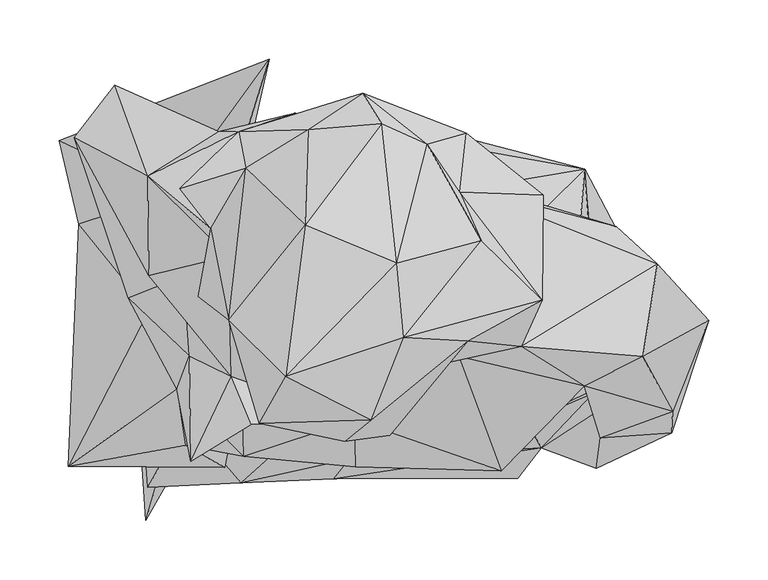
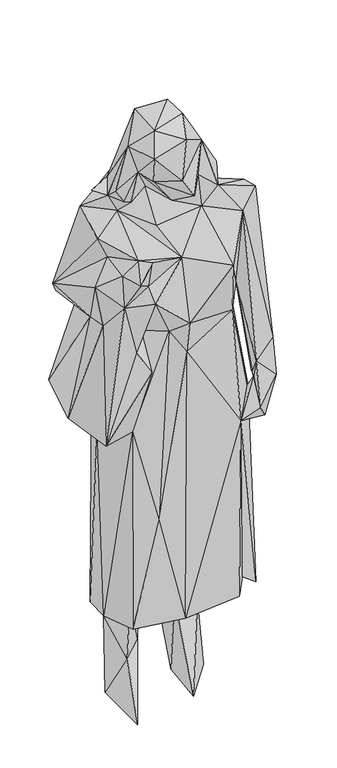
"""IFC4 building model written with IfcOpenShell, lengths in millimetres: geographic element geometry, Enscape AssetDefinition - Aamina 001 Standing : Enscape AssetDefinition - Aamina 001 Standing."""

import ifcopenshell
import ifcopenshell.guid

model = None  # the IFC model being written
_history = None  # IfcOwnerHistory: only IFC2X3 demands one
_inside = {}  # id of a spatial element -> (the spatial element, [elements in it])
_under = {}  # id of a project, library or spatial element -> (it, [spatial elements below it])
_declared = {}  # id of a project -> (the project, [libraries it declares])
_typed = {}  # id of a type object -> (the type object, [elements of that type])
_made_of = {}  # id of a material, layer set ... -> (it, [elements and type objects made of it])


def new_model(schema):
    """Start an empty IFC model of exactly this schema.

    Asked for "IFC4X3", IfcOpenShell would pick the latest addendum, in which some entities
    have other attributes; the version numbers below select the first issue.
    IFC2X3 requires an IfcOwnerHistory on every rooted entity: one is made here for all.
    """
    global model, _history
    if schema == "IFC4X3":
        model = ifcopenshell.file(schema_version=(4, 3, 0, 0))
    else:
        model = ifcopenshell.file(schema=schema)
    _inside.clear()
    _under.clear()
    _declared.clear()
    _typed.clear()
    _made_of.clear()
    _history = None
    if model.schema == "IFC2X3":
        org = make("IfcOrganization", Name="unknown")
        user = make(
            "IfcPersonAndOrganization",
            ThePerson=make("IfcPerson", FamilyName="unknown"),
            TheOrganization=org,
        )
        app = make(
            "IfcApplication",
            ApplicationDeveloper=org,
            Version="unknown",
            ApplicationFullName="unknown",
            ApplicationIdentifier="unknown",
        )
        _history = make(
            "IfcOwnerHistory",
            OwningUser=user,
            OwningApplication=app,
            ChangeAction="ADDED",
            CreationDate=0,
        )
    return model


def make(cls, **values):
    """One entity of the class cls with the attributes given. An attribute that is None is left unset."""
    return model.create_entity(
        cls, **{name: value for name, value in values.items() if value is not None}
    )


def rooted(cls, **values):
    """An entity with a GlobalId (a new one), such as an element, a storey or a relation."""
    return make(cls, GlobalId=ifcopenshell.guid.new(), OwnerHistory=_history, **values)


def si_unit(unit_type, name, prefix=None):
    """IfcSIUnit, for example si_unit("LENGTHUNIT", "METRE", prefix="MILLI")."""
    return make("IfcSIUnit", UnitType=unit_type, Prefix=prefix, Name=name)


def assignment(units):
    """IfcUnitAssignment: the units of a project."""
    return None if units is None else make("IfcUnitAssignment", Units=units)


def point(xyz):
    """IfcCartesianPoint."""
    return None if xyz is None else make("IfcCartesianPoint", Coordinates=xyz)


def direction(xyz):
    """IfcDirection."""
    return None if xyz is None else make("IfcDirection", DirectionRatios=xyz)


def frame(location, z_axis=None, x_axis=None):
    """IfcAxis2Placement3D, a coordinate frame: its origin and axes. An axis left out is left unset."""
    return make(
        "IfcAxis2Placement3D",
        Location=point(location),
        Axis=direction(z_axis),
        RefDirection=direction(x_axis),
    )


def origin():
    """The frame at (0, 0, 0) with its axes left unset."""
    return frame((0.0, 0.0, 0.0))


def place(relative_to, where):
    """IfcLocalPlacement: puts the frame where relative to a parent placement (None: the world)."""
    return make(
        "IfcLocalPlacement", PlacementRelTo=relative_to, RelativePlacement=where
    )


def context(
    kind, dimensions, precision=None, world=None, true_north=None, identifier=None
):
    """IfcGeometricRepresentationContext, for example the 3D "Model" context."""
    return make(
        "IfcGeometricRepresentationContext",
        ContextIdentifier=identifier,
        ContextType=kind,
        CoordinateSpaceDimension=dimensions,
        Precision=precision,
        WorldCoordinateSystem=world,
        TrueNorth=true_north,
    )


def project(units=None, contexts=None):
    """IfcProject with its units and contexts."""
    return rooted(
        "IfcProject",
        Name="project",
        RepresentationContexts=contexts,
        UnitsInContext=assignment(units),
    )


def spatial(cls, under=None, at=None, **own):
    """A site, building, storey or space (cls), placed at a placement, below another one or the project."""
    s = rooted(cls, ObjectPlacement=at, **own)
    if under is not None:
        _under.setdefault(under.id(), (under, []))[1].append(s)
    return s


def faces_of(points, faces, orient=None, outer=None):
    """IfcFace entities. A face is a list of loops; a loop is a list of indices into points, from 0.

    orient and outer hold one flag for each loop. By default every Orientation is true, the
    first loop of a face is its IfcFaceOuterBound and the others are IfcFaceBound.
    """
    made = []
    for i, loops in enumerate(faces):
        bounds = []
        for j, loop in enumerate(loops):
            is_outer = j == 0 if outer is None else outer[i][j]
            bounds.append(
                make(
                    "IfcFaceOuterBound" if is_outer else "IfcFaceBound",
                    Bound=make("IfcPolyLoop", Polygon=[points[k] for k in loop]),
                    Orientation=True if orient is None else orient[i][j],
                )
            )
        made.append(make("IfcFace", Bounds=bounds))
    return made


def faceted_brep(points, faces, orient=None, outer=None, voids=None):
    """IfcFacetedBrep: a solid bounded by flat faces; with voids (closed shells), ...WithVoids."""
    shared = [point(p) for p in points]
    hull = make("IfcClosedShell", CfsFaces=faces_of(shared, faces, orient, outer))
    if voids is None:
        return make("IfcFacetedBrep", Outer=hull)
    return make(
        "IfcFacetedBrepWithVoids",
        Outer=hull,
        Voids=[
            make(cls, CfsFaces=faces_of(shared, fs, o, b)) for cls, fs, o, b in voids
        ],
    )


def shape(context_of_items, identifier, shape_type, items):
    """IfcShapeRepresentation: the items that make up one representation, for example the "Body"."""
    return make(
        "IfcShapeRepresentation",
        ContextOfItems=context_of_items,
        RepresentationIdentifier=identifier,
        RepresentationType=shape_type,
        Items=items,
    )


def source(mapping_origin, context_of_items, identifier, shape_type, items):
    """IfcRepresentationMap: a shape defined once, which mapped items show again and again."""
    return make(
        "IfcRepresentationMap",
        MappingOrigin=mapping_origin,
        MappedRepresentation=shape(context_of_items, identifier, shape_type, items),
    )


def transform(
    local_origin,
    x_axis=None,
    y_axis=None,
    z_axis=None,
    scale=None,
    scale2=None,
    scale3=None,
    uniform=True,
):
    """IfcCartesianTransformationOperator3D, or its non-uniform kind. x_axis, y_axis, z_axis: its Axis1, 2, 3."""
    if uniform:
        return make(
            "IfcCartesianTransformationOperator3D",
            Axis1=direction(x_axis),
            Axis2=direction(y_axis),
            LocalOrigin=point(local_origin),
            Scale=scale,
            Axis3=direction(z_axis),
        )
    return make(
        "IfcCartesianTransformationOperator3DnonUniform",
        Axis1=direction(x_axis),
        Axis2=direction(y_axis),
        LocalOrigin=point(local_origin),
        Scale=scale,
        Axis3=direction(z_axis),
        Scale2=scale2,
        Scale3=scale3,
    )


def mapped(mapping_source, mapping_target):
    """IfcMappedItem: shows the shape of a source again, moved by a transform."""
    return make(
        "IfcMappedItem", MappingSource=mapping_source, MappingTarget=mapping_target
    )


def made_of(thing, what):
    """Note that an element or type object is made of a material, layer set ...; save() writes the relation."""
    if what is not None:
        _made_of.setdefault(what.id(), (what, []))[1].append(thing)
    return thing


def element(
    cls,
    number,
    at=None,
    inside=None,
    cuts=None,
    type_object=None,
    material=None,
    context=None,
    identifier="Body",
    shape_type=None,
    held_by="IfcProductDefinitionShape",
    body=None,
    shapes=None,
    **own,
):
    """One element of the class cls, such as IfcWall. Its Tag is "e" and its number.

    at: its placement. inside: the storey or other place that contains it. cuts: it is an
    opening in that element (IfcRelVoidsElement). A single representation is given by context,
    identifier, shape_type and body (its items); several are given by shapes. held_by: the class
    of the entity that holds the representations. save() writes the other relations.
    """
    e = rooted(cls, Tag="e%d" % number, ObjectPlacement=at, **own)
    if body is not None:
        shapes = [shape(context, identifier, shape_type, body)]
    if shapes is not None:
        e.Representation = make(held_by, Representations=shapes)
    if inside is not None:
        _inside.setdefault(inside.id(), (inside, []))[1].append(e)
    if cuts is not None:
        rooted(
            "IfcRelVoidsElement", RelatingBuildingElement=cuts, RelatedOpeningElement=e
        )
    if type_object is not None:
        _typed.setdefault(type_object.id(), (type_object, []))[1].append(e)
    return made_of(e, material)


def aggregate(whole, parts):
    """IfcRelAggregates: a whole, such as a stair, and the parts it consists of."""
    return rooted("IfcRelAggregates", RelatingObject=whole, RelatedObjects=parts)


def save(model, path):
    """Write the relations noted so far, then the file.

    IfcRelAggregates (storeys below a building ...), IfcRelContainedInSpatialStructure (elements
    in a storey), IfcRelDefinesByType, IfcRelAssociatesMaterial and IfcRelDeclares: one each for
    every whole, place, type object, material and project.
    """
    for whole, parts in _under.values():
        aggregate(whole, parts)
    for where, things in _inside.values():
        rooted(
            "IfcRelContainedInSpatialStructure",
            RelatedElements=things,
            RelatingStructure=where,
        )
    for kind, things in _typed.values():
        rooted("IfcRelDefinesByType", RelatedObjects=things, RelatingType=kind)
    for what, things in _made_of.values():
        rooted("IfcRelAssociatesMaterial", RelatedObjects=things, RelatingMaterial=what)
    for by, libraries in _declared.values():
        rooted("IfcRelDeclares", RelatingContext=by, RelatedDefinitions=libraries)
    model.write(path)


def geographic_element_03cdde9f(model_context):
    return source(origin(), model_context, "Body", "Brep", [
        faceted_brep([(3.6925983, 206.5947801, 1345.253706), (174.9135703, 140.3862238, 1154.0257931), (21.5798579, 154.0911347, 1116.5812016), (242.7344471, 4.6370788, 1141.3136721), (274.4769454, 111.1458763, 1334.4503641), (122.7270067, 144.2300826, 1325.0946999), (184.3580604, 97.0522836, 1116.2426472), (52.6192337, 198.403284, 1379.4064522), (144.9224055, 144.7923034, 1409.0415239), (148.063913, 189.5977259, 1457.6463699), (-43.8156687, 191.1288202, 1427.0786047), (60.8024299, 223.370865, 1437.37638), (115.0542423, 180.5336922, 1494.5758581), (142.4119473, 140.0640458, 1501.7603636), (212.7172649, 137.699604, 1458.6706161), (14.8781734, 192.8695142, 1483.4904671), (76.7580718, 197.7647543, 1508.0133677), (89.2591253, 80.0953656, 1701.9703388), (160.6013775, 99.3338451, 1557.7789545), (211.9131982, 49.1283312, 1488.6627197), (149.1457522, 14.4895604, 1596.9716311), (95.3851268, 17.2376521, 1695.0858831), (194.3504065, 9.9622039, 1446.5658665), (67.7939132, -52.083984, 1665.6156778), (-4.0504406, -15.299011, 1695.9196329), (45.2759676, -70.0301677, 1560.7132912), (-26.7371889, -55.1659353, 1641.1787271), (-52.117344, 32.0034884, 1637.652874), (12.4091804, 112.2973487, 1680.280447), (-19.1038195, 39.9835594, 1541.8515205), (-17.3689257, -34.1405682, 1556.8079948), (83.4639966, -65.3290078, 1498.3328581), (53.9848581, -3.1907908, 1457.3286772), (128.8457066, -4.2818272, 1511.1898184), (141.6403651, 1.3888106, 1407.0330858), (19.0312658, 70.8738938, 1468.5839415), (18.2884093, 14.0317865, 1382.4933767), (53.9488308, -51.941283, 1312.5792742), (177.406773, -95.1622576, 1270.6042528), (247.3052442, -23.2134722, 1368.7243462), (-52.7309477, 86.3101333, 1409.5956087), (-34.2003219, 49.7593172, 1449.5213032), (-67.5923377, 109.4390601, 1447.1702576), (-120.5921099, 153.5525322, 1406.1175585), (-49.9928556, -15.2877951, 1315.8607483), (-119.7770014, 69.6867332, 1355.453372), (-52.7425781, 52.5525846, 1456.1661482), (-77.9615417, 52.0461909, 1497.0887899), (-37.7926789, 160.2762789, 1464.9041891), (-93.4121385, 143.0105418, 1450.1056671), (-60.8213395, 191.0622269, 1347.0084667), (-182.4153215, 185.9131157, 1171.167016), (-148.1605023, 230.2148342, 1111.2271547), (-44.6954183, 166.4808244, 1215.9733772), (-100.1964062, 139.0896887, 1069.6296692), (-18.1096587, 252.0505786, 1204.0191889), (-45.8452813, 129.7644526, 1092.5935507), (-195.0389445, 183.6293191, 882.7176094), (-137.055397, 50.8505628, 1224.5038748), (-119.6783632, 40.4110551, 1108.8747978), (-178.8610965, 113.3516729, 803.1591177), (-101.0219082, 130.499959, 818.6979294), (19.7931603, 200.6023824, 923.7490296), (-80.3601146, 143.9951509, 243.4114814), (-139.534235, 71.9122142, 255.1493645), (-131.7790896, 48.9321537, 798.0738878), (-187.490806, -91.2478641, 844.9451327), (-96.1266905, -25.9464122, 1193.3621168), (-89.0383571, -73.6462027, 1085.1700306), (-88.5014534, -51.1866473, 830.5052519), (-55.5341616, -91.8981954, 1022.2576857), (-129.7235638, 21.1348031, 239.0556782), (92.5072134, 173.5134125, 223.9397764), (57.9170547, 118.2831675, 305.7615161), (283.2702994, 92.4233645, 244.0879643), (147.3203301, 130.5350363, 210.6518745), (155.3327739, 183.7115735, 524.482131), (247.6488501, 159.5949978, 909.9719524), (80.0784975, 131.405741, 1078.6920786), (280.7181776, -30.8943186, 231.5130383), (263.4303272, -24.3974719, 753.5709739), (226.083979, -57.0341721, 281.6941142), (231.4331084, 72.8820786, 311.166048), (285.589397, -67.0637488, 759.7576976), (211.2507522, -75.378187, 772.8924751), (260.9932125, -23.5297401, 833.9279294), (36.1468382, -101.4104187, 247.6486564), (-79.5149431, -24.3957117, 296.0427701), (-25.6828554, 23.8224398, 301.7778993), (121.2728694, 28.0157309, 309.607476), (191.3910657, -100.9625942, 261.080265), (153.7569761, 43.1964993, 170.6473827), (103.5413146, 71.4234337, 178.3996224), (151.7180055, 8.4689548, 0.0), (60.9431118, -98.1244892, -2.59e-05), (149.0816623, 116.5200025, 35.8732343), (101.1871174, 131.1557889, 77.9345855), (-53.5767674, 70.8494633, 220.8117098), (-35.9264612, 14.8301255, 140.1707828), (-37.7015285, 103.9401516, 77.0528913), (-122.169815, -136.5545243, -2.59e-05), (-44.3768725, 50.0936918, 27.4349228), (-90.559274, -27.7568642, 123.4411895), (-120.3404367, -108.8530421, 273.6225426), (-131.9238991, 9.0768076, 14.8529196), (-42.2627181, -105.0546318, 576.5906572), (49.6339016, -84.657304, 1045.6769466), (15.6585108, -53.0516505, 1100.5159616), (-40.0195122, -10.7378783, 1097.8422165), (-39.6937877, -82.8077868, 1221.3258743), (54.8176989, -91.5745944, 1135.846734), (198.8482773, -53.8373441, 1103.2272577), (260.7533336, -67.0495257, 933.9551926), (321.6977417, -44.8386073, 972.849071), (296.7067063, 1.4387764, 1413.6493206), (352.1651626, 31.9122076, 1018.7877417), (320.9826052, -62.9772469, 868.4481382), (308.8336885, 79.2898014, 1381.7828894), (267.0204639, -31.0430788, 881.280601), (271.0359097, -30.4913819, 879.9635768), (266.0985291, -32.4434936, 881.5636039), (266.1073506, -37.902765, 880.5766106), (276.2577534, -35.4074575, 869.641006), (268.6799169, -40.7833494, 868.5228825), (268.4156001, -37.8605463, 866.3281202), (236.1067384, 15.3513346, 1084.5370293), (254.7243237, -29.606944, 837.4141455), (257.5455904, -92.9242149, 806.958735), (-33.4963202, -55.9912063, 1328.8522959), (-40.430896, -49.6928021, 1255.1863194), (-84.0855837, -87.1301219, 1293.7283516), (-90.2762339, 69.5064738, 1291.6390896), (-85.714139, 1.8214589, 1270.9389925), (57.4553981, 8.0163619, 17.9554876)], [[[0, 1, 2]], [[3, 1, 4]], [[0, 5, 1]], [[5, 4, 1]], [[1, 6, 2]], [[3, 6, 1]], [[5, 0, 7]], [[8, 4, 5]], [[8, 5, 7]], [[7, 9, 8]], [[7, 0, 10]], [[11, 7, 10]], [[11, 9, 7]], [[12, 9, 11]], [[9, 13, 14]], [[9, 14, 8]], [[9, 12, 13]], [[15, 11, 10]], [[15, 16, 11]], [[16, 12, 11]], [[12, 17, 18]], [[12, 16, 17]], [[12, 18, 13]], [[19, 14, 13]], [[19, 13, 18]], [[19, 8, 14]], [[20, 19, 21]], [[22, 8, 19]], [[22, 19, 20]], [[19, 18, 21]], [[18, 17, 21]], [[20, 21, 23]], [[21, 24, 23]], [[21, 17, 24]], [[25, 23, 26]], [[20, 23, 25]], [[24, 26, 23]], [[27, 24, 28]], [[17, 28, 24]], [[24, 27, 26]], [[27, 29, 26]], [[30, 25, 26]], [[26, 29, 30]], [[30, 31, 25]], [[20, 25, 31]], [[30, 29, 32]], [[32, 31, 30]], [[20, 31, 33]], [[31, 32, 33]], [[33, 22, 20]], [[32, 34, 33]], [[33, 34, 22]], [[34, 32, 35]], [[29, 35, 32]], [[34, 35, 36]], [[37, 38, 34]], [[39, 34, 38]], [[34, 39, 22]], [[34, 36, 37]], [[40, 36, 35]], [[29, 41, 35]], [[41, 40, 35]], [[37, 36, 40]], [[40, 42, 43]], [[44, 37, 40]], [[42, 40, 41]], [[40, 43, 45]], [[44, 40, 45]], [[46, 42, 41]], [[29, 46, 41]], [[29, 47, 46]], [[27, 47, 29]], [[46, 47, 42]], [[42, 47, 27]], [[28, 48, 27]], [[48, 42, 27]], [[48, 10, 49]], [[48, 28, 15]], [[48, 15, 10]], [[42, 48, 49]], [[16, 15, 28]], [[16, 28, 17]], [[10, 43, 42]], [[42, 49, 10]], [[43, 10, 50]], [[0, 50, 10]], [[51, 45, 43]], [[43, 50, 52]], [[52, 51, 43]], [[52, 50, 53]], [[0, 53, 50]], [[0, 2, 53]], [[53, 54, 52]], [[54, 53, 55]], [[53, 2, 56]], [[53, 56, 55]], [[52, 54, 51]], [[57, 54, 55]], [[54, 58, 51]], [[58, 54, 59]], [[60, 59, 54]], [[54, 57, 60]], [[61, 55, 56]], [[55, 61, 57]], [[62, 61, 56]], [[56, 2, 62]], [[62, 63, 61]], [[64, 65, 61]], [[65, 60, 61]], [[64, 61, 63]], [[57, 61, 60]], [[66, 59, 60]], [[65, 66, 60]], [[58, 59, 67]], [[59, 66, 67]], [[67, 66, 68]], [[66, 65, 69]], [[70, 66, 69]], [[68, 66, 70]], [[69, 65, 71]], [[71, 65, 64]], [[71, 64, 63]], [[62, 72, 63]], [[63, 72, 73]], [[73, 71, 63]], [[72, 74, 75]], [[75, 73, 72]], [[76, 72, 62]], [[76, 74, 72]], [[77, 76, 62]], [[78, 77, 62]], [[62, 2, 78]], [[77, 74, 76]], [[79, 74, 80]], [[79, 81, 74]], [[82, 75, 74]], [[81, 82, 74]], [[80, 74, 77]], [[83, 84, 80]], [[80, 84, 79]], [[85, 83, 80]], [[80, 77, 85]], [[84, 81, 79]], [[81, 86, 87]], [[81, 88, 89]], [[81, 89, 82]], [[87, 88, 81]], [[90, 81, 84]], [[81, 90, 86]], [[82, 89, 91]], [[89, 88, 73]], [[89, 92, 91]], [[89, 73, 92]], [[82, 91, 75]], [[91, 93, 75]], [[94, 91, 92]], [[91, 94, 93]], [[93, 95, 75]], [[92, 75, 96]], [[73, 75, 92]], [[96, 75, 95]], [[88, 71, 73]], [[97, 71, 88]], [[88, 87, 98]], [[88, 98, 97]], [[99, 97, 98]], [[99, 71, 97]], [[98, 100, 101]], [[98, 87, 102]], [[98, 102, 100]], [[101, 99, 98]], [[87, 103, 71]], [[87, 86, 103]], [[71, 102, 87]], [[71, 104, 102]], [[100, 102, 104]], [[101, 100, 104]], [[104, 99, 101]], [[99, 104, 71]], [[69, 71, 103]], [[105, 103, 86]], [[105, 69, 103]], [[106, 86, 84]], [[84, 86, 90]], [[106, 105, 86]], [[107, 69, 105]], [[107, 105, 106]], [[69, 107, 108]], [[70, 69, 108]], [[107, 109, 108]], [[110, 109, 107]], [[107, 106, 110]], [[111, 106, 84]], [[106, 111, 110]], [[38, 110, 111]], [[37, 110, 38]], [[37, 109, 110]], [[39, 38, 3]], [[38, 111, 3]], [[39, 112, 113]], [[39, 3, 112]], [[114, 39, 113]], [[39, 114, 22]], [[115, 114, 113]], [[113, 116, 115]], [[116, 113, 112]], [[114, 115, 117]], [[22, 114, 117]], [[8, 22, 117]], [[117, 4, 8]], [[117, 115, 4]], [[118, 115, 119]], [[115, 118, 4]], [[116, 119, 115]], [[120, 4, 118]], [[4, 120, 3]], [[121, 118, 119]], [[120, 118, 121]], [[119, 116, 122]], [[121, 119, 122]], [[123, 112, 121]], [[121, 3, 120]], [[3, 121, 112]], [[121, 124, 123]], [[121, 122, 124]], [[125, 6, 3]], [[125, 3, 111]], [[6, 77, 78]], [[77, 6, 125]], [[6, 78, 2]], [[125, 111, 85]], [[85, 77, 125]], [[111, 84, 126]], [[85, 111, 126]], [[83, 85, 116]], [[122, 85, 126]], [[122, 116, 85]], [[122, 126, 124]], [[84, 124, 126]], [[127, 84, 83]], [[127, 124, 84]], [[127, 83, 116]], [[116, 112, 127]], [[112, 123, 127]], [[124, 127, 123]], [[37, 44, 128]], [[37, 129, 109]], [[37, 128, 129]], [[130, 129, 128]], [[128, 44, 130]], [[44, 45, 131]], [[44, 131, 132]], [[130, 44, 132]], [[130, 132, 67]], [[130, 67, 129]], [[109, 129, 67]], [[68, 109, 67]], [[108, 109, 68]], [[132, 58, 67]], [[131, 58, 132]], [[45, 51, 131]], [[131, 51, 58]], [[108, 68, 70]], [[133, 92, 96]], [[133, 96, 93]], [[96, 95, 93]], [[94, 92, 133]], [[93, 94, 133]]]),
    ])


if __name__ == "__main__":
    model = new_model("IFC4")
    model_context = context("Model", 3, world=origin())
    ifc_project = project(units=[si_unit("LENGTHUNIT", "METRE", prefix="MILLI")], contexts=[model_context])
    site = spatial("IfcSite", under=ifc_project)
    building = spatial("IfcBuilding", under=site)
    placement = place(None, origin())
    geographic_element_shape = geographic_element_03cdde9f(model_context)
    element("IfcGeographicElement", 1, ObjectType="Enscape AssetDefinition - Aamina 001 Standing : Enscape AssetDefinition - Aamina 001 Standing", at=placement, inside=building, context=model_context, shape_type="MappedRepresentation", body=[
        mapped(geographic_element_shape, transform((0.0, 0.0, 0.0), x_axis=(1.0, 0.0, 0.0), y_axis=(0.0, 1.0, 0.0), z_axis=(0.0, 0.0, 1.0))),
    ])
    save(model, "model.ifc")
